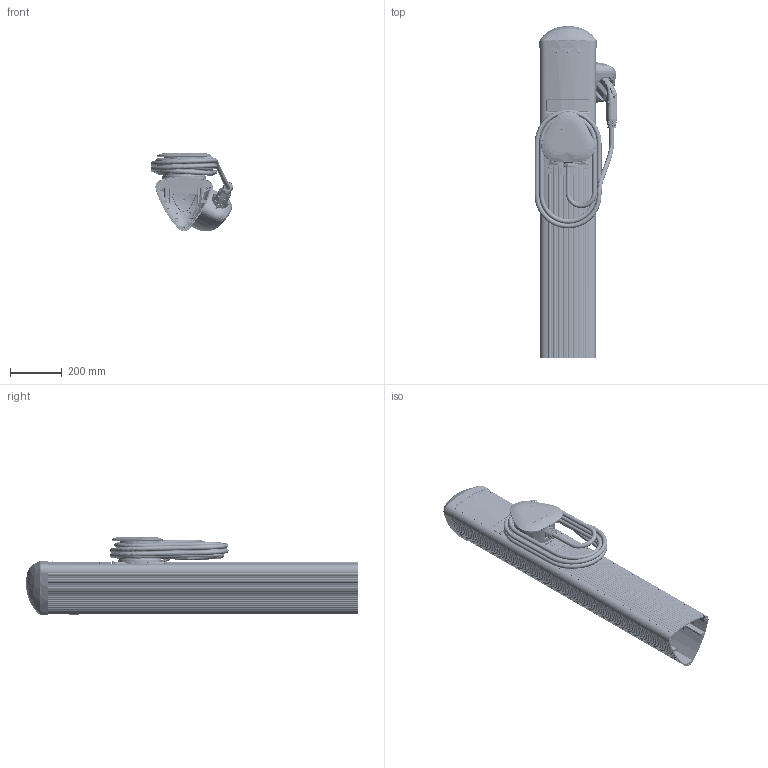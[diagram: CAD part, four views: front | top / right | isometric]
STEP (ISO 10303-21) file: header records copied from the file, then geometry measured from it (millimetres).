
FILE_DESCRIPTION((''),'2;1');
FILE_NAME('CT2000_BOLLARD220_ASM','2013-04-19T',('Darren'),(''),'PRO/ENGINEER BY PARAMETRIC TECHNOLOGY CORPORATION, 2011330','PRO/ENGINEER BY PARAMETRIC TECHNOLOGY CORPORATION, 2011330','');
FILE_SCHEMA(('CONFIG_CONTROL_DESIGN'));
Length unit declared in the file: millimetre
Products named in the file (55): 22-001038-01_BOLLARD_EXTRU; 22-001074-01_LWR_PANEL_CT2000; PLATE-UL-LBL-CT2X00; RIVET-FLAT; 31-001087-01_CT2000_MECH_ASM; 22-001035-02_HOLSTER_FUNNEL; 22-001035-02_HOLSTER_FUNNEL_ASM; 22-001033-02_HOLSTER_COVER; 22-001032-02_HOLSTER_BASE; PEM_ITC-0420; 22-001032-02_HOLSTER_BASE_ASM; 7335-8523_02_PKG_MODEL_07-07-20; 31-001028-02_220V_HOLDER-C_ASM; 22-001029-03_CABLE_HOLDER; PEM_IBC_M4; 22-001029-03_CABLE_HOLDER_ASM; 21-001022-01_VCABLE_BACKER; KJ_MAGNETICS_MM-C-16; SEALCON_CD32DR-BR; SEALCON_NM-32-BR; 31-001025-02_PILOT_FRONT_ASM; 22-001030-02_COVER; 20-001013-01_PILOT_LABEL; VEHICLE_CABLE_2000; 22-001028-03_PILOT_FRT_CAST; 31-001025-02_PILOT_UNIT-C_ASM; 28-001012_PCB_DISPLAY; 3M_890-XX-014-10-803; KEYSTONE_8923_SPACER; LED_BI_T-175; 32-001002_PCBA_DISPLAY_ASM; HEX_SPACER_6-32; DISPLAY_CU16029ECPB; 3M_929850-01-14-XX; DISPLAY_FILTER; 30-001000_DISPLAY_ASM; SCREW_6-32_PAN-PHIL_X_250; 31-001003_DISPLAY_ASM; 22-001066-01_UPPER_FRONT_PANEL; PEM-PKB-632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
Assembly tree (83 placements, depth 6):
  CT2000_BOLLARD220_ASM
    31-001087-01_CT2000_MECH_ASM
      22-001038-01_BOLLARD_EXTRU
      22-001074-01_LWR_PANEL_CT2000
      PLATE-UL-LBL-CT2X00
      RIVET-FLAT  x2
    31-001028-02_220V_HOLDER-C_ASM
      22-001035-02_HOLSTER_FUNNEL_ASM
        22-001035-02_HOLSTER_FUNNEL
      22-001033-02_HOLSTER_COVER
      22-001032-02_HOLSTER_BASE_ASM
        22-001032-02_HOLSTER_BASE
        PEM_ITC-0420  x3
      7335-8523_02_PKG_MODEL_07-07-20
    31-001025-02_PILOT_UNIT-C_ASM
      31-001025-02_PILOT_FRONT_ASM
        22-001029-03_CABLE_HOLDER_ASM
          22-001029-03_CABLE_HOLDER
          PEM_IBC_M4  x2
        21-001022-01_VCABLE_BACKER
        KJ_MAGNETICS_MM-C-16  x2
        SEALCON_CD32DR-BR
        SEALCON_NM-32-BR
      22-001030-02_COVER
      20-001013-01_PILOT_LABEL
      VEHICLE_CABLE_2000
      22-001028-03_PILOT_FRT_CAST
    31-001083-01_HEAD_ASSY_CT2000_ASM
      31-001084-01_UPPER_ASM
        31-001003_DISPLAY_ASM
          32-001002_PCBA_DISPLAY_ASM
            28-001012_PCB_DISPLAY
            3M_890-XX-014-10-803
            KEYSTONE_8923_SPACER  x3
            LED_BI_T-175  x3
          HEX_SPACER_6-32  x4
          30-001000_DISPLAY_ASM
            DISPLAY_CU16029ECPB
            3M_929850-01-14-XX
            DISPLAY_FILTER
          SCREW_6-32_PAN-PHIL_X_250  x8
        31-001081-01_UPPER_FRONT_PANEL_ASM
          22-001066-01_UPPER_FRONT_PANEL_ASM
            22-001066-01_UPPER_FRONT_PANEL
            PEM-PKB-632  x8
      20-001002_UPPER_LABEL
      20-001039-01_LOWER_LABEL_CT2000
      22-001009_UPPER_FRONT_WINDOW
      31-001001-03_TOP_CAP_ASM
        22-001005-04_TOP_CAP_ASM
          22-001005-04_TOP_CAP
          PEM_PKB-832  x4
      PILOT_SPACER_COMP_ASM
        22-001068-01_PILOT_SPACER
        22-001067-01_FILLER_PANEL_FRONT
Bounding box: 320.06 x 1281.47 x 303.98 mm (x, y, z)
Volume: 8476706.9 mm3; surface area: 3505526.1 mm2
Topology: 66 solids, 74 shells, 10504 faces, 26021 edges, 15884 vertices
Faces by surface type: plane 2993, bspline 2754, cylinder 2531, cone 1157, torus 655, sphere 368, revolution 24, extrusion 22
Entity records: 495035 total; most frequent: CARTESIAN_POINT 282910, ORIENTED_EDGE 48604, DIRECTION 37648, EDGE_CURVE 24302, VERTEX_POINT 14821, AXIS2_PLACEMENT_3D 14741, EDGE_LOOP 10393, FACE_OUTER_BOUND 9850
